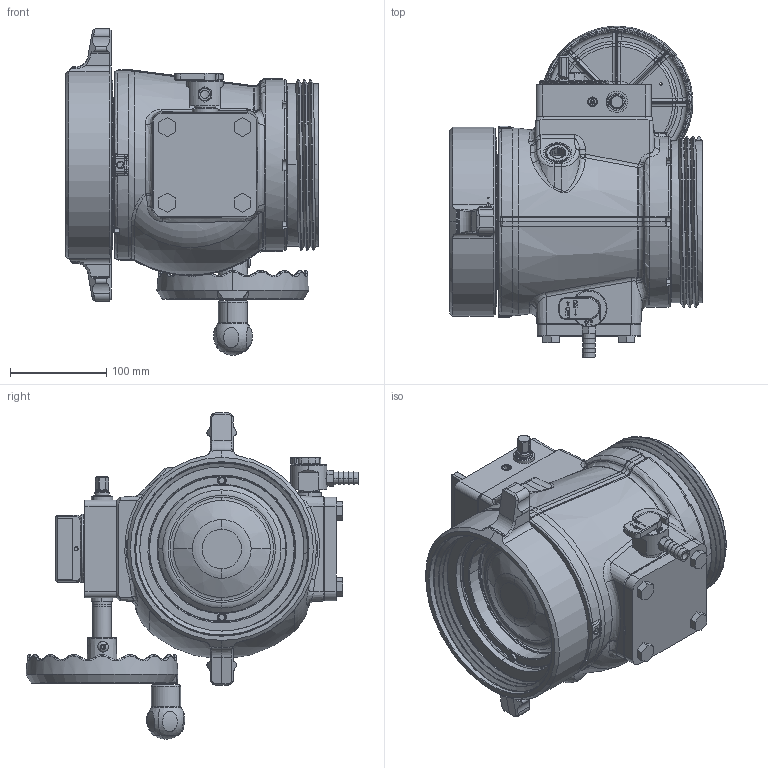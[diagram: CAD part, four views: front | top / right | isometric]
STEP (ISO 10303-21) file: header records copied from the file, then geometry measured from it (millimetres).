
FILE_DESCRIPTION (( 'STEP AP203' ), '1' );
FILE_NAME ('AQ8NX-NX.STEP', '2020-05-14T15:30:39', ( 'Windows User' ), ( '' ), 'SwSTEP 2.0', 'SolidWorks 2019', '' );
FILE_SCHEMA (( 'CONFIG_CONTROL_DESIGN' ));
Length unit declared in the file: inch
Products named in the file (1): AQ8NX-NX
Bounding box: 263.13 x 345.54 x 339.79 mm (x, y, z)
Surface area: 550276.1 mm2 (no closed solid volume)
Topology: 0 solids, 135 shells, 1583 faces, 6761 edges, 5199 vertices
Faces by surface type: plane 481, bspline 346, cylinder 340, cone 212, torus 176, sphere 28
Entity records: 101707 total; most frequent: CARTESIAN_POINT 52205, ORIENTED_EDGE 9931, DIRECTION 8623, EDGE_CURVE 6733, VERTEX_POINT 5195, AXIS2_PLACEMENT_3D 2914, LINE 2795, VECTOR 2795
